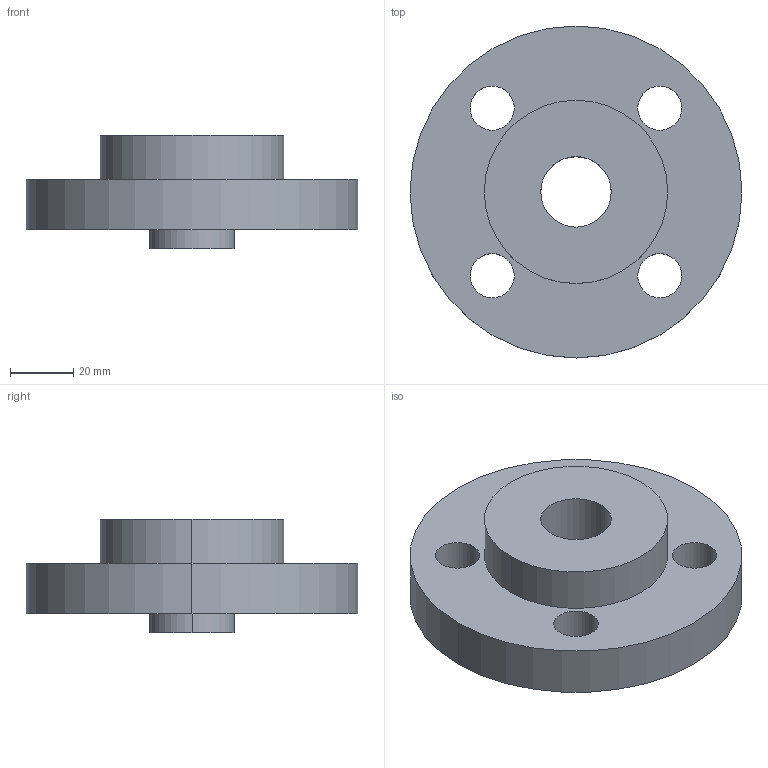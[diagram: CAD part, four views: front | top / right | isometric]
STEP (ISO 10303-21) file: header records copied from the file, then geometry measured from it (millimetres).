
FILE_DESCRIPTION (( 'STEP AP214' ), '1' );
FILE_NAME ('PN40 DN20 Type 04 in 34 - (Type A Face).STEP', '2018-12-29T18:27:48', ( '' ), ( '' ), 'SwSTEP 2.0', 'SolidWorks 2019', '' );
FILE_SCHEMA (( 'AUTOMOTIVE_DESIGN' ));
Length unit declared in the file: millimetre
Products named in the file (1): PN40 DN20 Type 04 in 34 - (Type A Face)
Bounding box: 105 x 105 x 36 mm (x, y, z)
Volume: 143107.4 mm3; surface area: 34380.7 mm2
Topology: 2 solids, 2 shells, 29 faces, 66 edges, 42 vertices
Faces by surface type: cylinder 18, cone 6, plane 5
Entity records: 901 total; most frequent: DIRECTION 168, CARTESIAN_POINT 138, ORIENTED_EDGE 132, AXIS2_PLACEMENT_3D 72, EDGE_CURVE 66, CIRCLE 42, EDGE_LOOP 42, VERTEX_POINT 42
